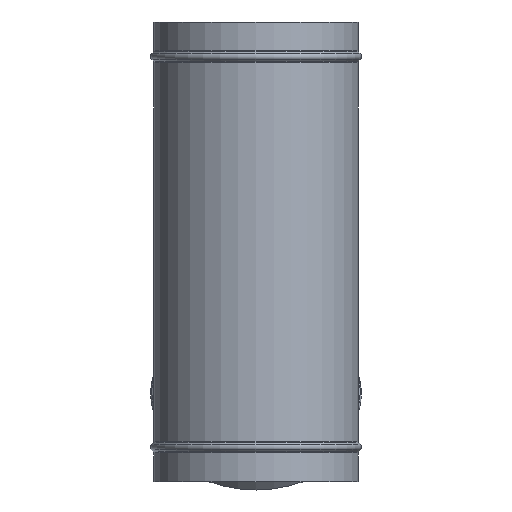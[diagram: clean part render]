
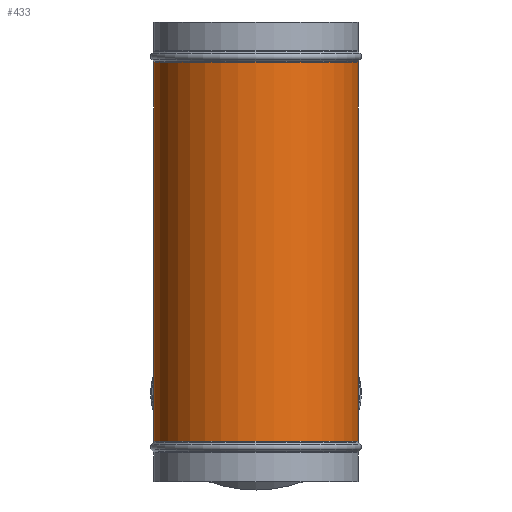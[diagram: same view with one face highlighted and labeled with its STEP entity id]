
A CAD part, top view. The second image highlights one B-rep face of the part: STEP entity #433.
In plain terms, the highlighted cylindrical face has radius 102 mm (diameter 204 mm), a partial arc.
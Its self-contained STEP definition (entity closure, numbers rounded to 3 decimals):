
#185=CYLINDRICAL_SURFACE('',#1518,102.);
#241=FACE_OUTER_BOUND('',#537,.T.);
#305=LINE('',#2328,#357);
#306=LINE('',#2330,#358);
#309=LINE('',#2343,#361);
#310=LINE('',#2347,#362);
#357=VECTOR('',#1879,1.);
#358=VECTOR('',#1880,1.);
#361=VECTOR('',#1897,1.);
#362=VECTOR('',#1900,1.);
#433=ADVANCED_FACE('',(#241),#185,.T.);
#537=EDGE_LOOP('',(#783,#784,#785,#786,#787,#788));
#783=ORIENTED_EDGE('',*,*,#1164,.F.);
#784=ORIENTED_EDGE('',*,*,#1160,.T.);
#785=ORIENTED_EDGE('',*,*,#1163,.T.);
#786=ORIENTED_EDGE('',*,*,#1173,.T.);
#787=ORIENTED_EDGE('',*,*,#1174,.T.);
#788=ORIENTED_EDGE('',*,*,#1171,.F.);
#1015=VERTEX_POINT('',#2321);
#1016=VERTEX_POINT('',#2323);
#1017=VERTEX_POINT('',#2329);
#1018=VERTEX_POINT('',#2331);
#1021=VERTEX_POINT('',#2344);
#1022=VERTEX_POINT('',#2346);
#1160=EDGE_CURVE('',#1016,#1015,#1324,.T.);
#1163=EDGE_CURVE('',#1015,#1017,#305,.T.);
#1164=EDGE_CURVE('',#1016,#1018,#306,.T.);
#1171=EDGE_CURVE('',#1018,#1021,#309,.T.);
#1173=EDGE_CURVE('',#1017,#1022,#310,.T.);
#1174=EDGE_CURVE('',#1022,#1021,#1328,.T.);
#1324=CIRCLE('',#1503,102.);
#1328=CIRCLE('',#1517,102.);
#1503=AXIS2_PLACEMENT_3D('',#2322,#1869,#1870);
#1517=AXIS2_PLACEMENT_3D('',#2349,#1903,#1904);
#1518=AXIS2_PLACEMENT_3D('',#2350,#1905,#1906);
#1869=DIRECTION('',(0.,1.,0.));
#1870=DIRECTION('',(-1.,0.,0.));
#1879=DIRECTION('',(0.,1.,0.));
#1880=DIRECTION('',(0.,1.,0.));
#1897=DIRECTION('',(0.,1.,0.));
#1900=DIRECTION('',(0.,1.,0.));
#1903=DIRECTION('',(0.,-1.,0.));
#1904=DIRECTION('',(1.,0.,0.));
#1905=DIRECTION('',(0.,1.,0.));
#1906=DIRECTION('',(-1.,0.,0.));
#2321=CARTESIAN_POINT('',(207.5,40.278,-105.5));
#2322=CARTESIAN_POINT('',(105.5,40.278,-105.5));
#2323=CARTESIAN_POINT('',(3.5,40.278,-105.5));
#2328=CARTESIAN_POINT('',(207.5,40.278,-105.5));
#2329=CARTESIAN_POINT('',(207.5,347.,-105.5));
#2330=CARTESIAN_POINT('',(3.5,40.278,-105.5));
#2331=CARTESIAN_POINT('',(3.5,347.,-105.5));
#2343=CARTESIAN_POINT('',(3.5,347.,-105.5));
#2344=CARTESIAN_POINT('',(3.5,418.722,-105.5));
#2346=CARTESIAN_POINT('',(207.5,418.722,-105.5));
#2347=CARTESIAN_POINT('',(207.5,347.,-105.5));
#2349=CARTESIAN_POINT('',(105.5,418.722,-105.5));
#2350=CARTESIAN_POINT('',(105.5,-22.95,-105.5));
